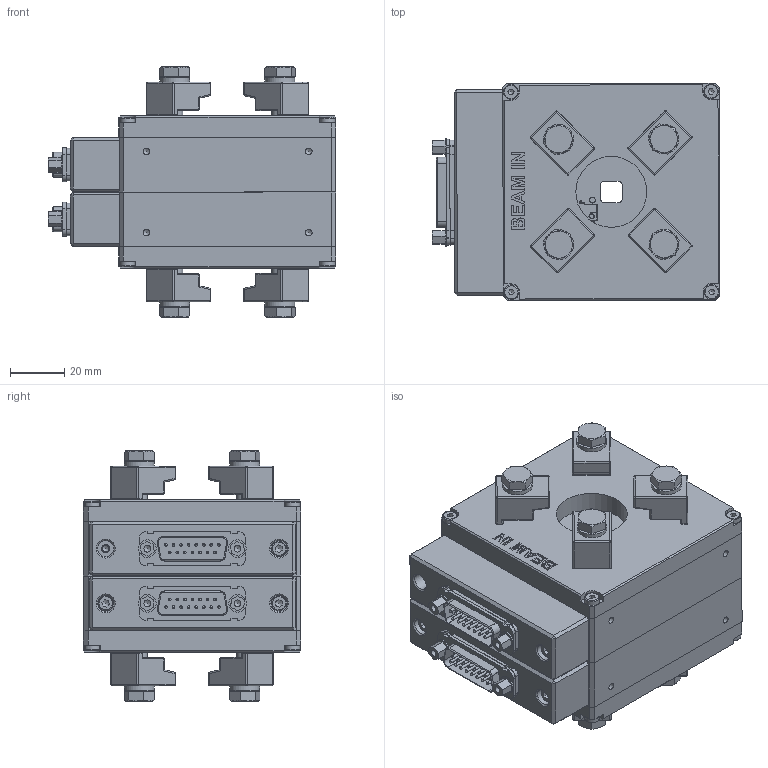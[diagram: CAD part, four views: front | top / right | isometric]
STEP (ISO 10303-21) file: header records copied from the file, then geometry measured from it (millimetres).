
FILE_DESCRIPTION(/* description */ (''),/* implementation_level */ '2;1');
FILE_NAME(/* name */ 'C:\WF\Designs\Slitter\22033 AT C8 HV standard slit\PDF og stp Hjemmeside\22033000 for step.stp',/* time_stamp */ '2022-06-15T14:13:55+02:00',/* author */ ('Henning'),/* organization */ ('JJ X-Ray A/S'),/* preprocessor_version */ 'ST-DEVELOPER v18.1',/* originating_system */ 'Autodesk Inventor 2021',/* authorisation */ 'JJ X-Ray A/S');
FILE_SCHEMA (('AUTOMOTIVE_DESIGN { 1 0 10303 214 3 1 1 }'));
Products named in the file (18): 22033000 for step; 22033002 for stp; 22033014; 22033003 for stp; 22033013; nr. 453-886; 22033026; ISO 4762 - M3 x 10; DBConnector; Omron D2MQ; 22033011; DIN 7984 - M3 x 16; DIN 7984 - M3 x 12; o-ring 87,0 X 2,00; KF Claw grip w screw; PF104000-T; ISO 4017 - M6 x 20; ISO 7092 - ST 6 - 140 HV
Assembly tree (38 placements, depth 3):
  22033000 for step
    22033002 for stp
      nr. 453-886  x2
      DBConnector
      ISO 4762 - M3 x 10
      22033014
      22033026
    22033011  x2
    22033003 for stp
      22033013
      nr. 453-886  x2
      22033026
      ISO 4762 - M3 x 10  x2
      DBConnector
      Omron D2MQ
    DIN 7984 - M3 x 16  x4
    DIN 7984 - M3 x 12  x4
    o-ring 87,0 X 2,00
    KF Claw grip w screw  x8
      PF104000-T
      ISO 4017 - M6 x 20
      ISO 7092 - ST 6 - 140 HV
Bounding box: 106.26 x 80.19 x 92.4 mm (x, y, z)
Volume: 224463.7 mm3; surface area: 129371.2 mm2
Topology: 49 solids, 49 shells, 2653 faces, 6741 edges, 4272 vertices
Faces by surface type: plane 1407, cylinder 628, bspline 248, sphere 137, cone 124, torus 109
Full cylindrical faces by diameter (mm): 0.8 x1, 0.991 x30, 1.221 x4, 1.6 x2, 2 x4, 2.1 x4, 2.156 x4, 2.2 x8, 2.459 x24, 2.487 x4, 2.82 x4, 3 x11, 3.048 x4, 3.1 x4, 3.2 x8, 3.5 x4, 4.2 x12, 4.917 x8, 5.5 x11, 6 x12, 6.4 x8, 6.5 x4, 7 x8, 8.88 x8, 11 x8, 26.2 x2
Entity records: 50926 total; most frequent: CARTESIAN_POINT 12627, ORIENTED_EDGE 7950, DIRECTION 7139, EDGE_CURVE 3975, VERTEX_POINT 2629, LINE 2469, VECTOR 2469, AXIS2_PLACEMENT_3D 2335
